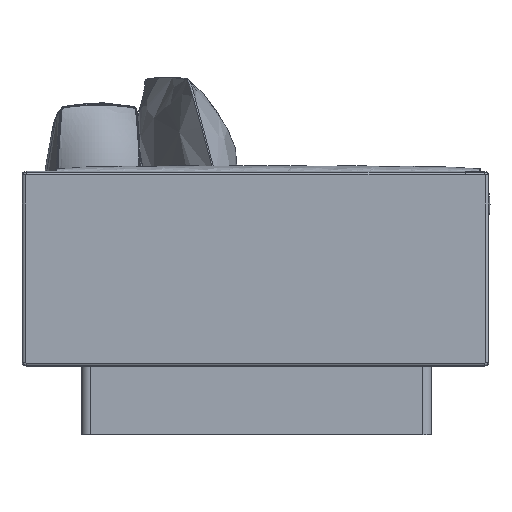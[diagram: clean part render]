
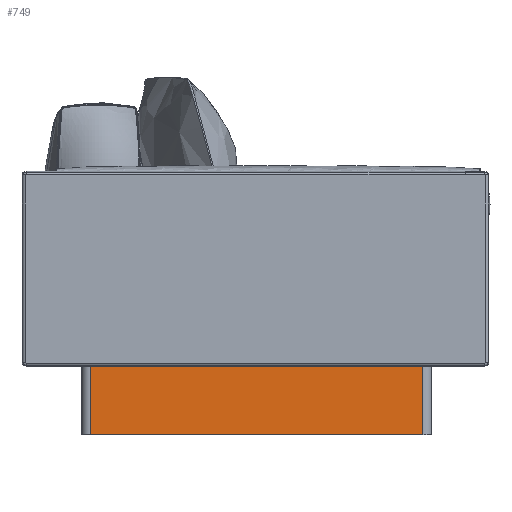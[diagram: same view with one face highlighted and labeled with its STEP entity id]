
A CAD part, left-side view. The second image highlights one B-rep face of the part: STEP entity #749.
In plain terms, the highlighted planar face has unit normal (-1, 0, 0).
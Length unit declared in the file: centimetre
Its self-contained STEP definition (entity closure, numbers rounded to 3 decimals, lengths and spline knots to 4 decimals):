
#62=PLANE('',#3940);
#749=ADVANCED_FACE('',(#1001),#62,.T.);
#1001=FACE_OUTER_BOUND('',#1253,.T.);
#1253=EDGE_LOOP('',(#2273,#2274,#2275,#2276));
#2273=ORIENTED_EDGE('',*,*,#2887,.T.);
#2274=ORIENTED_EDGE('',*,*,#2888,.T.);
#2275=ORIENTED_EDGE('',*,*,#2889,.F.);
#2276=ORIENTED_EDGE('',*,*,#2884,.F.);
#2884=EDGE_CURVE('',#3645,#3646,#3229,.T.);
#2887=EDGE_CURVE('',#3645,#3648,#3232,.T.);
#2888=EDGE_CURVE('',#3648,#3649,#3233,.T.);
#2889=EDGE_CURVE('',#3646,#3649,#3234,.T.);
#3229=(
BOUNDED_CURVE()
B_SPLINE_CURVE(1,(#53121,#53122),.UNSPECIFIED.,.F.,.F.)
B_SPLINE_CURVE_WITH_KNOTS((2,2),(0.,15.2),.UNSPECIFIED.)
CURVE()
GEOMETRIC_REPRESENTATION_ITEM()
RATIONAL_B_SPLINE_CURVE((1.,1.))
REPRESENTATION_ITEM('')
);
#3232=(
BOUNDED_CURVE()
B_SPLINE_CURVE(2,(#53130,#53131,#53132),.UNSPECIFIED.,.F.,.F.)
B_SPLINE_CURVE_WITH_KNOTS((3,3),(247.869,320.269),
 .UNSPECIFIED.)
CURVE()
GEOMETRIC_REPRESENTATION_ITEM()
RATIONAL_B_SPLINE_CURVE((1.,1.,1.))
REPRESENTATION_ITEM('')
);
#3233=(
BOUNDED_CURVE()
B_SPLINE_CURVE(1,(#53133,#53134),.UNSPECIFIED.,.F.,.F.)
B_SPLINE_CURVE_WITH_KNOTS((2,2),(0.,15.2),.UNSPECIFIED.)
CURVE()
GEOMETRIC_REPRESENTATION_ITEM()
RATIONAL_B_SPLINE_CURVE((1.,1.))
REPRESENTATION_ITEM('')
);
#3234=(
BOUNDED_CURVE()
B_SPLINE_CURVE(2,(#53135,#53136,#53137),.UNSPECIFIED.,.F.,.F.)
B_SPLINE_CURVE_WITH_KNOTS((3,3),(247.869,320.269),
 .UNSPECIFIED.)
CURVE()
GEOMETRIC_REPRESENTATION_ITEM()
RATIONAL_B_SPLINE_CURVE((1.,1.,1.))
REPRESENTATION_ITEM('')
);
#3645=VERTEX_POINT('',#53109);
#3646=VERTEX_POINT('',#53110);
#3648=VERTEX_POINT('',#53112);
#3649=VERTEX_POINT('',#53113);
#3940=AXIS2_PLACEMENT_3D('',#53103,#3997,$);
#3997=DIRECTION('',(-1.,0.,0.));
#53103=CARTESIAN_POINT('',(-3.8,36.2,0.));
#53109=CARTESIAN_POINT('',(-3.8,36.2,0.));
#53110=CARTESIAN_POINT('',(-3.8,36.2,15.2));
#53112=CARTESIAN_POINT('',(-3.8,-36.2,0.));
#53113=CARTESIAN_POINT('',(-3.8,-36.2,15.2));
#53121=CARTESIAN_POINT('',(-3.8,36.2,0.));
#53122=CARTESIAN_POINT('',(-3.8,36.2,15.2));
#53130=CARTESIAN_POINT('',(-3.8,36.2,0.));
#53131=CARTESIAN_POINT('',(-3.8,0.,0.));
#53132=CARTESIAN_POINT('',(-3.8,-36.2,0.));
#53133=CARTESIAN_POINT('',(-3.8,-36.2,0.));
#53134=CARTESIAN_POINT('',(-3.8,-36.2,15.2));
#53135=CARTESIAN_POINT('',(-3.8,36.2,15.2));
#53136=CARTESIAN_POINT('',(-3.8,0.,15.2));
#53137=CARTESIAN_POINT('',(-3.8,-36.2,15.2));
